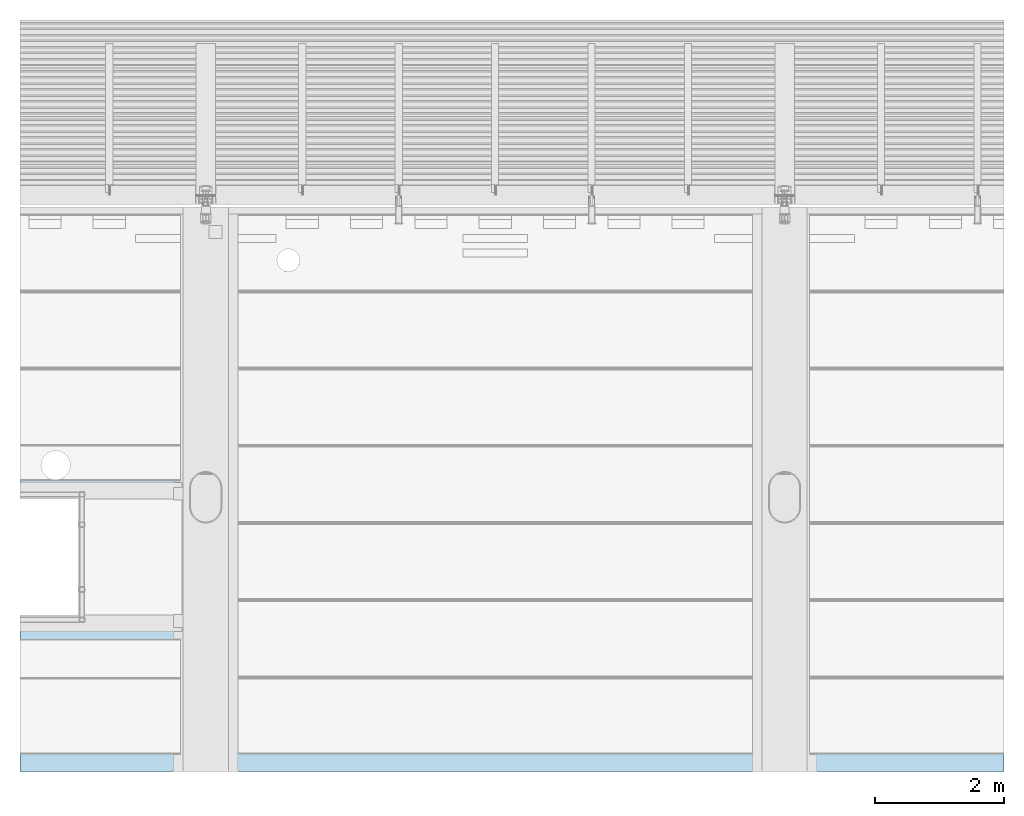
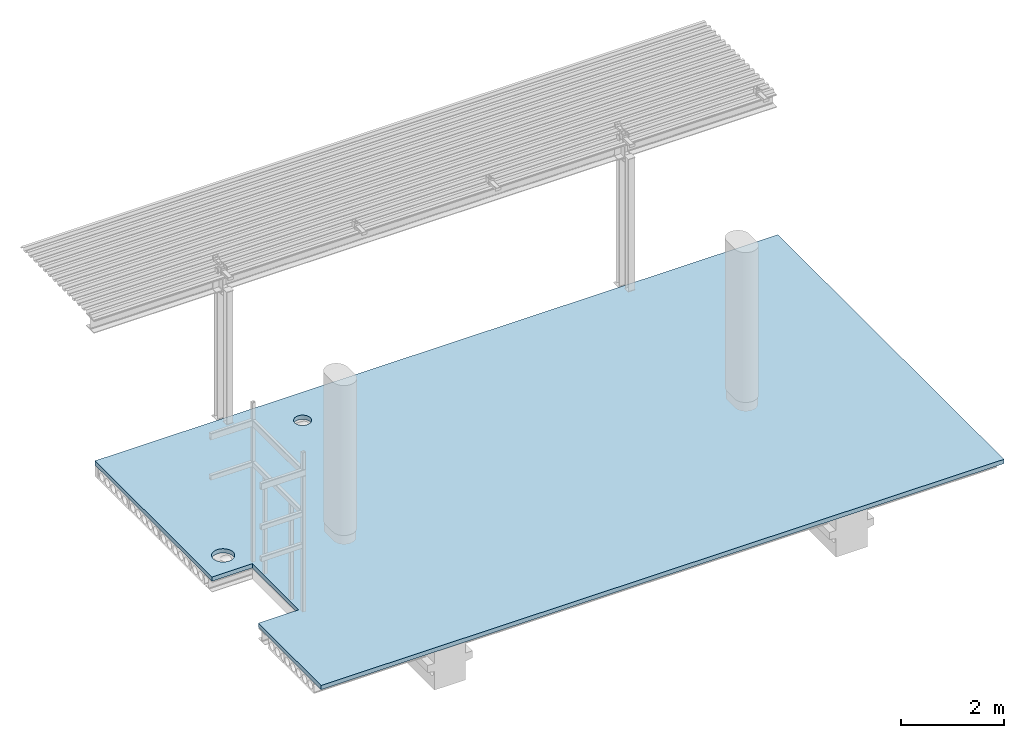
# One storey, part 32 of 34: 1 slab.
"""IFC2X3 building model written with IfcOpenShell, lengths in millimetres."""

from ifc_helpers import new_model, entity, si_unit, converted_unit, derived_unit, direction, frame, origin_with_axes, place, context, subcontext, project, spatial, faceted_brep, type_object, element, save


model = new_model("IFC2X3")

# Units and contexts
model_context = context("Model", 3, precision=0.01, world=frame((0.0, 4.29681676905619e-09, 0.0)), true_north=direction((4.01073788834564e-13, 1.0)))
plan_context = context("Plan", 3, precision=0.01, world=frame((0.0, 4.29681676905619e-09, 0.0)), true_north=direction((4.01073788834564e-13, 1.0)))
body_context = subcontext(model_context, "Body", "Model", "MODEL_VIEW")
ifc_project = project(units=[converted_unit("PLANEANGLEUNIT", "DEGREE", entity("IfcPositiveLengthMeasure", 0.0174532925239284), si_unit("PLANEANGLEUNIT", "RADIAN"), dimensions=[0, 0, 0, 0, 0, 0, 0]), si_unit("AREAUNIT", "SQUARE_METRE"), si_unit("LENGTHUNIT", "METRE", prefix="MILLI"), si_unit("MASSUNIT", "GRAM", prefix="KILO"), si_unit("POWERUNIT", "WATT"), si_unit("PRESSUREUNIT", "PASCAL"), si_unit("FORCEUNIT", "NEWTON", prefix="KILO"), si_unit("ELECTRICVOLTAGEUNIT", "VOLT"), si_unit("ELECTRICCURRENTUNIT", "AMPERE"), si_unit("THERMODYNAMICTEMPERATUREUNIT", "DEGREE_CELSIUS"), si_unit("TIMEUNIT", "SECOND"), si_unit("VOLUMEUNIT", "CUBIC_METRE"), derived_unit("LINEARVELOCITYUNIT", [(si_unit("LENGTHUNIT", "METRE"), 1), (si_unit("TIMEUNIT", "SECOND"), -1)]), derived_unit("VOLUMETRICFLOWRATEUNIT", [(si_unit("VOLUMEUNIT", "CUBIC_METRE"), 1), (si_unit("TIMEUNIT", "SECOND"), -1)]), derived_unit("THERMALTRANSMITTANCEUNIT", [(si_unit("POWERUNIT", "WATT"), 1), (si_unit("THERMODYNAMICTEMPERATUREUNIT", "KELVIN"), -1), (si_unit("AREAUNIT", "SQUARE_METRE"), -1)]), derived_unit("SOUNDPRESSUREUNIT", [(si_unit("PRESSUREUNIT", "PASCAL"), 1)])], contexts=[model_context, plan_context])

# Site, building, storey
site_placement = place(None, frame((0.0, -4.29681676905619e-09, 0.0), z_axis=(0.0, 0.0, 1.0), x_axis=(1.0, 0.0, 0.0)))
site = spatial("IfcSite", under=ifc_project, at=site_placement, Name="Gardermoen", CompositionType="ELEMENT")
building_placement = place(site_placement, frame((0.0, 4.29681676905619e-09, 0.0), z_axis=(0.0, 0.0, 1.0), x_axis=(1.0, 0.0, 0.0)))
building = spatial("IfcBuilding", under=site, at=building_placement, Name="TH", CompositionType="ELEMENT")
storey_placement = place(building_placement, origin_with_axes())
storey = spatial("IfcBuildingStorey", under=building, at=storey_placement, Name="F", CompositionType="ELEMENT", Elevation=0.0)

# Slab
slab_type = type_object("IfcSlabType", Name="100*13310", PredefinedType="NOTDEFINED")
slab_placement = place(storey_placement, frame((916000.000235, 484809.994384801, 210080.0), z_axis=(6.61744490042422e-24, 0.0, 1.0), x_axis=(-1.0, 0.0, 6.61744490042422e-24)))
element("IfcSlab", 1, at=slab_placement, inside=storey, type_object=slab_type, Name="PÅSTØP", ObjectType="100*13310", PredefinedType="FLOOR", context=body_context, shape_type="Brep", body=[
    faceted_brep([(5589.41539320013, 0.0, -50.0), (5589.41539320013, 0.0, 50.0), (20888.0940664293, 0.0, 50.0), (20888.0940664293, 0.0, -50.0), (20888.0940664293, 4539.91649921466, -50.0), (19985.0002308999, 4539.88037112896, -50.0), (19985.0002308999, 6339.99438480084, -50.0), (20888.0940664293, 6339.99438480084, -50.0), (20888.0940664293, 8775.31746391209, -50.0000000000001), (5589.41539320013, 8775.31746391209, -50.0), (16887.1118149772, 857.102815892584, -50.0), (16889.7704582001, 826.714384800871, -50.0), (16887.1118149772, 796.325953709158, -50.0), (16879.2166668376, 766.860859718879, -50.0), (16866.3249038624, 739.214384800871, -50.0), (16848.8282357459, 714.226553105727, -50.0), (16827.2582898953, 692.65660725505, -50.0), (16802.2704582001, 675.159939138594, -50.0), (16774.6239832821, 662.268176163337, -50.0), (16745.1588892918, 654.373028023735, -50.0), (16714.7704582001, 651.714384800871, -50.0), (16684.3820271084, 654.373028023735, -50.0), (16654.9169331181, 662.268176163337, -50.0), (16627.2704582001, 675.159939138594, -50.0), (16602.282626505, 692.65660725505, -50.0), (16580.7126806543, 714.226553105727, -50.0), (16563.2160125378, 739.214384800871, -50.0), (16550.3242495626, 766.860859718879, -50.0), (16542.429101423, 796.325953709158, -50.0), (16539.7704582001, 826.714384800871, -50.0), (16542.429101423, 857.102815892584, -50.0), (16550.3242495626, 886.567909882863, -50.0), (16563.2160125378, 914.214384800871, -50.0), (16580.7126806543, 939.202216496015, -50.0), (16602.282626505, 960.772162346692, -50.0), (16627.2704582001, 978.268830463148, -50.0), (16654.9169331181, 991.160593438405, -50.0), (16684.3820271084, 999.055741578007, -50.0), (16714.7704582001, 1001.71438480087, -50.0), (16745.1588892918, 999.055741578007, -50.0), (16774.6239832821, 991.160593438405, -50.0), (16802.2704582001, 978.268830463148, -50.0), (16827.2582898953, 960.772162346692, -50.0), (16848.8282357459, 939.202216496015, -50.0), (16866.3249038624, 914.214384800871, -50.0), (16879.2166668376, 886.567909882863, -50.0), (20555.0922026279, 4051.94522477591, -50.0), (20558.5104582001, 4012.87438480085, -50.0), (20555.0922026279, 3973.80354482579, -50.0), (20544.9412978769, 3935.91985255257, -50.0), (20528.3661740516, 3900.37438480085, -50.0), (20505.8704579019, 3868.24717262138, -50.0), (20478.1376703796, 3840.51438509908, -50.0), (20446.0104582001, 3818.01866894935, -50.0), (20410.4649904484, 3801.44354512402, -50.0), (20372.5812981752, 3791.2926403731, -50.0), (20333.5104582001, 3787.87438480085, -50.0), (20294.4396182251, 3791.2926403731, -50.0), (20256.5559259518, 3801.44354512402, -50.0), (20221.0104582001, 3818.01866894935, -50.0), (20188.8832460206, 3840.51438509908, -50.0), (20161.1504584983, 3868.24717262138, -50.0), (20138.6547423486, 3900.37438480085, -50.0), (20122.0796185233, 3935.91985255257, -50.0), (20111.9287137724, 3973.80354482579, -50.0), (20108.5104582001, 4012.87438480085, -50.0), (20111.9287137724, 4051.94522477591, -50.0), (20122.0796185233, 4089.82891704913, -50.0), (20138.6547423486, 4125.37438480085, -50.0), (20161.1504584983, 4157.50159698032, -50.0), (20188.8832460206, 4185.23438450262, -50.0), (20221.0104582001, 4207.73010065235, -50.0), (20256.5559259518, 4224.30522447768, -50.0), (20294.4396182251, 4234.4561292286, -50.0), (20333.5104582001, 4237.87438480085, -50.0), (20372.5812981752, 4234.4561292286, -50.0), (20410.4649904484, 4224.30522447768, -50.0), (20446.0104582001, 4207.73010065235, -50.0), (20478.1376703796, 4185.23438450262, -50.0), (20505.8704579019, 4157.50159698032, -50.0), (20528.3661740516, 4125.37438480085, -50.0), (20544.9412978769, 4089.82891704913, -50.0), (5589.41539320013, 8775.31746391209, 50.0000000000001), (20888.0940664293, 8775.31746391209, 50.0000000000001), (20888.0940664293, 6339.99438480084, 50.0), (19985.0002348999, 6339.99438480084, 50.0), (19985.0002348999, 4539.88037112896, 50.0), (20888.0940664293, 4539.9164992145, 50.0), (16889.7704622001, 826.714384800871, 50.0), (16887.1118189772, 857.102815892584, 50.0), (16879.2166708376, 886.567909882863, 50.0), (16866.3249078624, 914.214384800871, 50.0), (16848.8282397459, 939.202216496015, 50.0), (16827.2582938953, 960.772162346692, 50.0), (16802.2704622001, 978.268830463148, 50.0), (16774.6239872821, 991.160593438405, 50.0), (16745.1588932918, 999.055741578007, 50.0), (16714.7704622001, 1001.71438480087, 50.0), (16684.3820311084, 999.055741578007, 50.0), (16654.9169371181, 991.160593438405, 50.0), (16627.2704622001, 978.268830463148, 50.0), (16602.282630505, 960.772162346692, 50.0), (16580.7126846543, 939.202216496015, 50.0), (16563.2160165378, 914.214384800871, 50.0), (16550.3242535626, 886.567909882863, 50.0), (16542.429105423, 857.102815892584, 50.0), (16539.7704622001, 826.714384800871, 50.0), (16542.429105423, 796.325953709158, 50.0), (16550.3242535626, 766.860859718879, 50.0), (16563.2160165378, 739.214384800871, 50.0), (16580.7126846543, 714.226553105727, 50.0), (16602.282630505, 692.65660725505, 50.0), (16627.2704622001, 675.159939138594, 50.0), (16654.9169371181, 662.268176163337, 50.0), (16684.3820311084, 654.373028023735, 50.0), (16714.7704622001, 651.714384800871, 50.0), (16745.1588932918, 654.373028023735, 50.0), (16774.6239872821, 662.268176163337, 50.0), (16802.2704622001, 675.159939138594, 50.0), (16827.2582938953, 692.65660725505, 50.0), (16848.8282397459, 714.226553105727, 50.0), (16866.3249078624, 739.214384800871, 50.0), (16879.2166708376, 766.860859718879, 50.0), (16887.1118189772, 796.325953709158, 50.0), (20558.5104622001, 4012.87438480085, 50.0), (20555.0922066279, 4051.94522477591, 50.0), (20544.9413018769, 4089.82891704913, 50.0), (20528.3661780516, 4125.37438480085, 50.0), (20505.8704619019, 4157.50159698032, 50.0), (20478.1376743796, 4185.23438450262, 50.0), (20446.0104622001, 4207.73010065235, 50.0), (20410.4649944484, 4224.30522447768, 50.0), (20372.5813021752, 4234.4561292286, 50.0), (20333.5104622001, 4237.87438480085, 50.0), (20294.439622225, 4234.4561292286, 50.0), (20256.5559299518, 4224.30522447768, 50.0), (20221.0104622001, 4207.73010065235, 50.0), (20188.8832500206, 4185.23438450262, 50.0), (20161.1504624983, 4157.50159698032, 50.0), (20138.6547463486, 4125.37438480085, 50.0), (20122.0796225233, 4089.82891704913, 50.0), (20111.9287177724, 4051.94522477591, 50.0), (20108.5104622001, 4012.87438480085, 50.0), (20111.9287177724, 3973.80354482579, 50.0), (20122.0796225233, 3935.91985255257, 50.0), (20138.6547463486, 3900.37438480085, 50.0), (20161.1504624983, 3868.24717262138, 50.0), (20188.8832500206, 3840.51438509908, 50.0), (20221.0104622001, 3818.01866894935, 50.0), (20256.5559299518, 3801.44354512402, 50.0), (20294.439622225, 3791.2926403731, 50.0), (20333.5104622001, 3787.87438480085, 50.0), (20372.5813021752, 3791.2926403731, 50.0), (20410.4649944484, 3801.44354512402, 50.0), (20446.0104622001, 3818.01866894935, 50.0), (20478.1376743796, 3840.51438509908, 50.0), (20505.8704619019, 3868.24717262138, 50.0), (20528.3661780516, 3900.37438480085, 50.0), (20544.9413018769, 3935.91985255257, 50.0), (20555.0922066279, 3973.80354482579, 50.0), (20888.0940691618, 6339.99438480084, 50.0005308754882), (20888.0940664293, 6339.99438480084, -50.0008355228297), (19985.0002308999, 6339.99438480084, -50.0007993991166), (19985.0002348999, 6339.99438480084, 50.0005669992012), (20888.0940664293, 4539.91649921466, -50.0005460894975), (20888.0940691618, 4539.91649921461, 50.0003873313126), (19985.0002348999, 4539.88037112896, 50.0005669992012), (19985.0002308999, 4539.88037112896, -50.0007993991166)], [[[0, 1, 2, 3]], [[3, 4, 5, 6, 7, 8, 9, 0], [10, 11, 12, 13, 14, 15, 16, 17, 18, 19, 20, 21, 22, 23, 24, 25, 26, 27, 28, 29, 30, 31, 32, 33, 34, 35, 36, 37, 38, 39, 40, 41, 42, 43, 44, 45], [46, 47, 48, 49, 50, 51, 52, 53, 54, 55, 56, 57, 58, 59, 60, 61, 62, 63, 64, 65, 66, 67, 68, 69, 70, 71, 72, 73, 74, 75, 76, 77, 78, 79, 80, 81]], [[1, 82, 83, 84, 85, 86, 87, 2], [88, 89, 90, 91, 92, 93, 94, 95, 96, 97, 98, 99, 100, 101, 102, 103, 104, 105, 106, 107, 108, 109, 110, 111, 112, 113, 114, 115, 116, 117, 118, 119, 120, 121, 122, 123], [124, 125, 126, 127, 128, 129, 130, 131, 132, 133, 134, 135, 136, 137, 138, 139, 140, 141, 142, 143, 144, 145, 146, 147, 148, 149, 150, 151, 152, 153, 154, 155, 156, 157, 158, 159]], [[160, 161, 162, 163]], [[164, 165, 166, 167]], [[166, 163, 162, 167]], [[89, 88, 11, 10]], [[88, 123, 12, 11]], [[123, 122, 13, 12]], [[122, 121, 14, 13]], [[121, 120, 15, 14]], [[120, 119, 16, 15]], [[119, 118, 17, 16]], [[118, 117, 18, 17]], [[117, 116, 19, 18]], [[116, 115, 20, 19]], [[115, 114, 21, 20]], [[114, 113, 22, 21]], [[113, 112, 23, 22]], [[112, 111, 24, 23]], [[111, 110, 25, 24]], [[110, 109, 26, 25]], [[109, 108, 27, 26]], [[108, 107, 28, 27]], [[107, 106, 29, 28]], [[106, 105, 30, 29]], [[105, 104, 31, 30]], [[104, 103, 32, 31]], [[103, 102, 33, 32]], [[102, 101, 34, 33]], [[101, 100, 35, 34]], [[100, 99, 36, 35]], [[99, 98, 37, 36]], [[98, 97, 38, 37]], [[97, 96, 39, 38]], [[96, 95, 40, 39]], [[95, 94, 41, 40]], [[94, 93, 42, 41]], [[93, 92, 43, 42]], [[92, 91, 44, 43]], [[91, 90, 45, 44]], [[90, 89, 10, 45]], [[125, 124, 47, 46]], [[124, 159, 48, 47]], [[159, 158, 49, 48]], [[158, 157, 50, 49]], [[157, 156, 51, 50]], [[156, 155, 52, 51]], [[155, 154, 53, 52]], [[154, 153, 54, 53]], [[153, 152, 55, 54]], [[152, 151, 56, 55]], [[151, 150, 57, 56]], [[150, 149, 58, 57]], [[149, 148, 59, 58]], [[148, 147, 60, 59]], [[147, 146, 61, 60]], [[146, 145, 62, 61]], [[145, 144, 63, 62]], [[144, 143, 64, 63]], [[143, 142, 65, 64]], [[142, 141, 66, 65]], [[141, 140, 67, 66]], [[140, 139, 68, 67]], [[139, 138, 69, 68]], [[138, 137, 70, 69]], [[137, 136, 71, 70]], [[136, 135, 72, 71]], [[135, 134, 73, 72]], [[134, 133, 74, 73]], [[133, 132, 75, 74]], [[132, 131, 76, 75]], [[131, 130, 77, 76]], [[130, 129, 78, 77]], [[129, 128, 79, 78]], [[128, 127, 80, 79]], [[127, 126, 81, 80]], [[126, 125, 46, 81]], [[82, 1, 0, 9]], [[8, 7, 84, 83]], [[87, 4, 3, 2]], [[83, 82, 9, 8]]], orient=[[False], [False, False, False], [False, False, False], [False], [False], [False], [False], [False], [False], [False], [False], [False], [False], [False], [False], [False], [False], [False], [False], [False], [False], [False], [False], [False], [False], [False], [False], [False], [False], [False], [False], [False], [False], [False], [False], [False], [False], [False], [False], [False], [False], [False], [False], [False], [False], [False], [False], [False], [False], [False], [False], [False], [False], [False], [False], [False], [False], [False], [False], [False], [False], [False], [False], [False], [False], [False], [False], [False], [False], [False], [False], [False], [False], [False], [False], [False], [False], [False], [False], [False], [False], [False]]),
])

save(model, "model.ifc")
